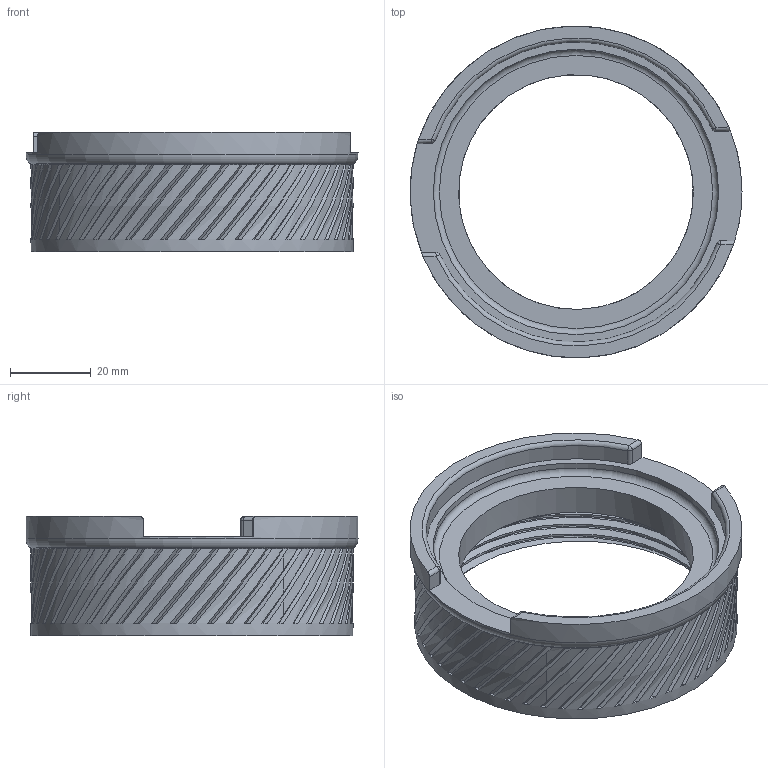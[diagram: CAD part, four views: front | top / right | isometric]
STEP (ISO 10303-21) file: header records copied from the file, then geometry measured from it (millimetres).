
FILE_DESCRIPTION(/* description */ ('STEP AP242','CAx-IF Rec.Pracs.---Representation and Presentation of Product Manufacturing Information (PMI)---4.0---2014-10-13','CAx-IF Rec.Pracs.---3D Tessellated Geometry---0.4---2014-09-14','2;1'),/* implementation_level */ '2;1');
FILE_NAME(/* name */ '64692490cac4670533c20b06',/* time_stamp */ '2023-05-20T19:50:41Z',/* author */ (''),/* organization */ (''),/* preprocessor_version */ 'ST-DEVELOPER v19.4',/* originating_system */ ' ',/* authorisation */ ' ');
FILE_SCHEMA (('AP242_MANAGED_MODEL_BASED_3D_ENGINEERING_MIM_LF { 1 0 10303 442 1 1 4 }'));
Length unit declared in the file: metre
Products named in the file (1): Base 23mm NoMagnet Lug
Bounding box: 82 x 82 x 29.4 mm (x, y, z)
Volume: 39322.5 mm3; surface area: 19884.7 mm2
Topology: 1 solids, 1 shells, 312 faces, 805 edges, 494 vertices
Faces by surface type: bspline 153, plane 129, cylinder 18, torus 4, cone 4, sphere 4
Full cylindrical faces by diameter (mm): 58 x1, 70.5 x1, 79.6 x1, 82 x1
Entity records: 15920 total; most frequent: CARTESIAN_POINT 10083, ORIENTED_EDGE 1556, DIRECTION 791, EDGE_CURVE 778, VERTEX_POINT 482, AXIS2_PLACEMENT_3D 357, B_SPLINE_CURVE_WITH_KNOTS 339, EDGE_LOOP 322
